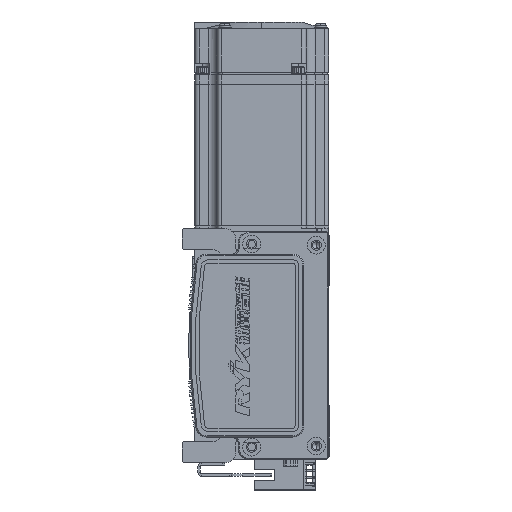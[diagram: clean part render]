
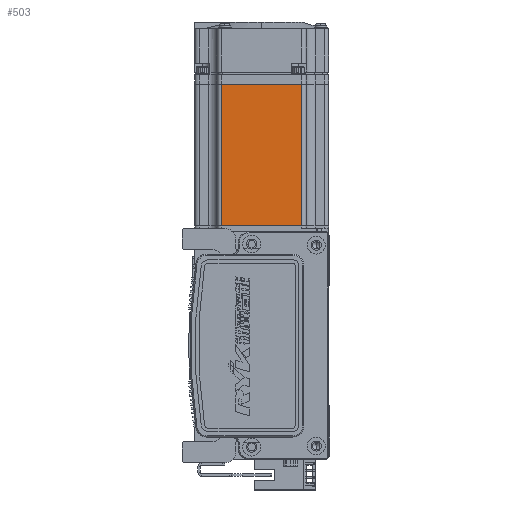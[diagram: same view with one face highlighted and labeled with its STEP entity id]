
A CAD part, left-side view. The second image highlights one B-rep face of the part: STEP entity #503.
In plain terms, the highlighted planar face has unit normal (-1, 0, 0) as drawn and (0, 0, -1) by its records, which use the part's own axes.
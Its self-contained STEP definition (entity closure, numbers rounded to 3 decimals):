
#503 = ADVANCED_FACE ( 'NONE', ( #62272 ), #72052, .T. ) ;
#2557 = CARTESIAN_POINT ( 'NONE',  ( -6.5, -18., -30. ) ) ;
#2711 = CARTESIAN_POINT ( 'NONE',  ( -70.95, 18., -30. ) ) ;
#4147 = EDGE_CURVE ( 'NONE', #26598, #14580, #7724, .T. ) ;
#6121 = DIRECTION ( 'NONE',  ( -1., 0., 0. ) ) ;
#7724 = LINE ( 'NONE', #2557, #51354 ) ;
#10127 = ORIENTED_EDGE ( 'NONE', *, *, #4147, .T. ) ;
#11711 = CARTESIAN_POINT ( 'NONE',  ( -70.95, -18., -30. ) ) ;
#12844 = VERTEX_POINT ( 'NONE', #33412 ) ;
#14580 = VERTEX_POINT ( 'NONE', #11711 ) ;
#15600 = CARTESIAN_POINT ( 'NONE',  ( -6.5, 18., -30. ) ) ;
#17687 = DIRECTION ( 'NONE',  ( 0., 1., 0. ) ) ;
#18363 = VECTOR ( 'NONE', #21410, 1000. ) ;
#19856 = LINE ( 'NONE', #45751, #65324 ) ;
#21410 = DIRECTION ( 'NONE',  ( 1., 0., 0. ) ) ;
#23611 = LINE ( 'NONE', #15600, #18363 ) ;
#23725 = EDGE_LOOP ( 'NONE', ( #62102, #10127, #45346, #63022 ) ) ;
#24626 = VERTEX_POINT ( 'NONE', #2711 ) ;
#25632 = DIRECTION ( 'NONE',  ( 0., -1., 0. ) ) ;
#26598 = VERTEX_POINT ( 'NONE', #72095 ) ;
#26855 = EDGE_CURVE ( 'NONE', #12844, #26598, #59096, .T. ) ;
#29608 = DIRECTION ( 'NONE',  ( -1., 0., 0. ) ) ;
#32943 = CARTESIAN_POINT ( 'NONE',  ( -6.5, 25., -30. ) ) ;
#33412 = CARTESIAN_POINT ( 'NONE',  ( -7.75, 18., -30. ) ) ;
#42571 = EDGE_CURVE ( 'NONE', #24626, #12844, #23611, .T. ) ;
#42621 = AXIS2_PLACEMENT_3D ( 'NONE', #32943, #55179, #6121 ) ;
#44321 = EDGE_CURVE ( 'NONE', #14580, #24626, #19856, .T. ) ;
#45346 = ORIENTED_EDGE ( 'NONE', *, *, #44321, .T. ) ;
#45751 = CARTESIAN_POINT ( 'NONE',  ( -70.95, 25., -30. ) ) ;
#45836 = VECTOR ( 'NONE', #25632, 1000. ) ;
#51354 = VECTOR ( 'NONE', #29608, 1000. ) ;
#53227 = CARTESIAN_POINT ( 'NONE',  ( -7.75, 25., -30. ) ) ;
#55179 = DIRECTION ( 'NONE',  ( 0., 0., -1. ) ) ;
#59096 = LINE ( 'NONE', #53227, #45836 ) ;
#62102 = ORIENTED_EDGE ( 'NONE', *, *, #26855, .T. ) ;
#62272 = FACE_OUTER_BOUND ( 'NONE', #23725, .T. ) ;
#63022 = ORIENTED_EDGE ( 'NONE', *, *, #42571, .T. ) ;
#65324 = VECTOR ( 'NONE', #17687, 1000. ) ;
#72052 = PLANE ( 'NONE',  #42621 ) ;
#72095 = CARTESIAN_POINT ( 'NONE',  ( -7.75, -18., -30. ) ) ;
